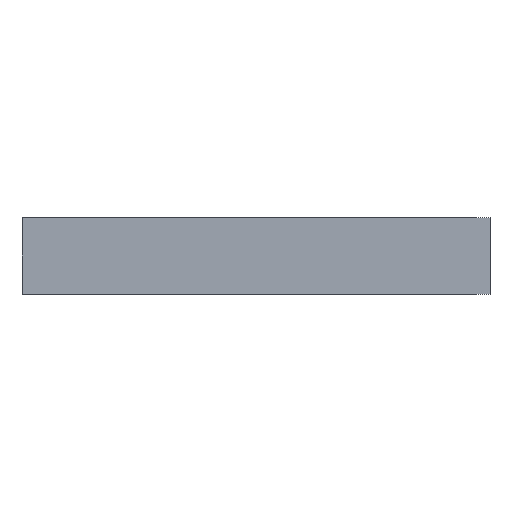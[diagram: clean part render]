
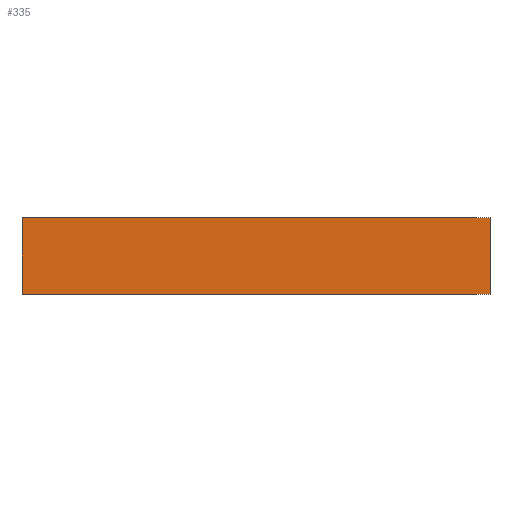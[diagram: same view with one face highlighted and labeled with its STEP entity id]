
A CAD part, front view. The second image highlights one B-rep face of the part: STEP entity #335.
In plain terms, the highlighted planar face has unit normal (0, -1, 0).
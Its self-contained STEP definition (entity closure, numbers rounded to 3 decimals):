
#1 = EDGE_CURVE ( 'NONE', #507, #565, #217, .T. ) ;
#3 = AXIS2_PLACEMENT_3D ( 'NONE', #414, #407, #406 ) ;
#8 = EDGE_CURVE ( 'NONE', #495, #530, #125, .T. ) ;
#37 = EDGE_CURVE ( 'NONE', #530, #565, #193, .T. ) ;
#56 = EDGE_CURVE ( 'NONE', #495, #507, #154, .T. ) ;
#92 = FACE_OUTER_BOUND ( 'NONE', #232, .T. ) ;
#125 = LINE ( 'NONE', #433, #208 ) ;
#153 = VECTOR ( 'NONE', #523, 1000. ) ;
#154 = LINE ( 'NONE', #525, #153 ) ;
#186 = VECTOR ( 'NONE', #570, 1000. ) ;
#193 = LINE ( 'NONE', #575, #186 ) ;
#208 = VECTOR ( 'NONE', #412, 1000. ) ;
#216 = VECTOR ( 'NONE', #469, 1000. ) ;
#217 = LINE ( 'NONE', #580, #216 ) ;
#232 = EDGE_LOOP ( 'NONE', ( #246, #247, #248, #249 ) ) ;
#246 = ORIENTED_EDGE ( 'NONE', *, *, #37, .T. ) ;
#247 = ORIENTED_EDGE ( 'NONE', *, *, #1, .F. ) ;
#248 = ORIENTED_EDGE ( 'NONE', *, *, #56, .F. ) ;
#249 = ORIENTED_EDGE ( 'NONE', *, *, #8, .T. ) ;
#335 = ADVANCED_FACE ( 'NONE', ( #92 ), #417, .F. ) ;
#374 = CARTESIAN_POINT ( 'NONE',  ( 200., 0., 0. ) ) ;
#387 = CARTESIAN_POINT ( 'NONE',  ( -200., 0., 0. ) ) ;
#393 = CARTESIAN_POINT ( 'NONE',  ( 200., 0., 65. ) ) ;
#395 = CARTESIAN_POINT ( 'NONE',  ( -200., 0., 65. ) ) ;
#406 = DIRECTION ( 'NONE',  ( -1., 0., 0. ) ) ;
#407 = DIRECTION ( 'NONE',  ( 0., 1., 0. ) ) ;
#412 = DIRECTION ( 'NONE',  ( 0., 0., -1. ) ) ;
#414 = CARTESIAN_POINT ( 'NONE',  ( -200., 0., 65. ) ) ;
#417 = PLANE ( 'NONE',  #3 ) ;
#433 = CARTESIAN_POINT ( 'NONE',  ( -200., 0., 65. ) ) ;
#469 = DIRECTION ( 'NONE',  ( 0., 0., -1. ) ) ;
#495 = VERTEX_POINT ( 'NONE', #395 ) ;
#507 = VERTEX_POINT ( 'NONE', #393 ) ;
#523 = DIRECTION ( 'NONE',  ( 1., 0., 0. ) ) ;
#525 = CARTESIAN_POINT ( 'NONE',  ( -200., 0., 65. ) ) ;
#530 = VERTEX_POINT ( 'NONE', #387 ) ;
#565 = VERTEX_POINT ( 'NONE', #374 ) ;
#570 = DIRECTION ( 'NONE',  ( 1., 0., 0. ) ) ;
#575 = CARTESIAN_POINT ( 'NONE',  ( -200., 0., 0. ) ) ;
#580 = CARTESIAN_POINT ( 'NONE',  ( 200., 0., 65. ) ) ;
